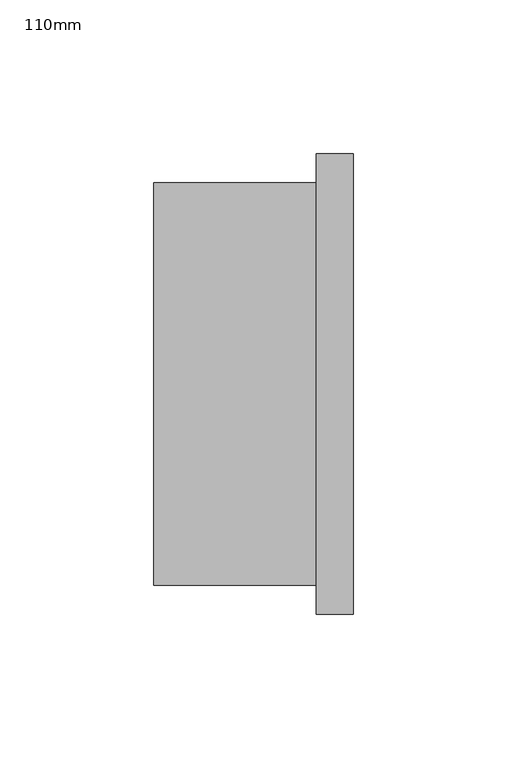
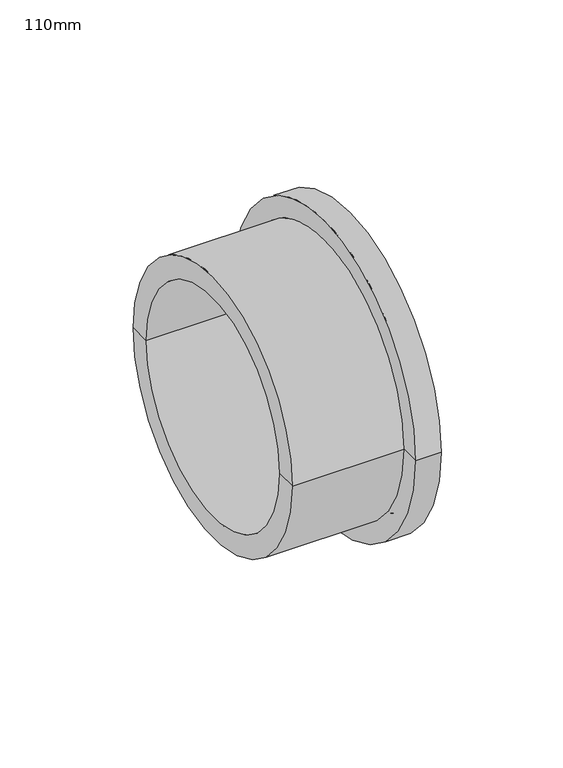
"""IFC4 building model written with IfcOpenShell, lengths in millimetres: pipe fitting geometry, Durapipe_PipeFitting_PVC_StubFlange : 110mm."""

from ifc_helpers import new_model, si_unit, frame, origin, place, context, project, spatial, polyline, circle_curve, source, transform, mapped, element, save
from ifc_brep_helpers import plane_surface, cylinder_surface, revolved_surface, advanced_brep


def pipe_fitting_110mm_e28571aa(model_context):
    return source(origin(), model_context, "Body", "AdvancedBrep", [
        advanced_brep(
        [(32.5, -75.0, 0.0), (32.5, 75.0, 0.0), (32.5, 67.5, 0.0), (32.5, -67.5, 0.0), (32.5, 45.0, 0.0), (32.5, -45.0, 0.0), (32.5, -63.7720779, 0.0), (32.5, 63.7720779, 0.0), (20.5, -75.0, 0.0), (20.5, 75.0, 0.0), (20.5, -65.5, 0.0), (20.5, 65.5, 0.0), (-32.5, -65.5, 0.0), (-32.5, 65.5, 0.0), (-32.5, -55.0, 0.0), (-32.5, 55.0, 0.0), (28.5, 45.0, 0.0), (28.5, -45.0, 0.0), (28.5, -55.0, 0.0), (28.5, 55.0, 0.0), (32.5, 65.0147186, 0.0), (31.0, 64.3933983, 0.0), (31.0, -64.3933983, 0.0), (32.5, -65.0147186, 0.0), (31.0, -65.636039, 0.0), (31.0, 65.636039, 0.0), (32.5, -66.2573593, 0.0), (32.5, 66.2573593, 0.0), (31.0, -66.8786797, 0.0), (31.0, 66.8786797, 0.0)],
        [
            (0, 1, circle_curve(frame((32.5, 0.0, 0.0), z_axis=(1.0, 0.0, 0.0), x_axis=(0.0, 1.0, 0.0)), 75.0)),
            (1, 2),
            (2, 3, circle_curve(frame((32.5, 0.0, 0.0), z_axis=(-1.0, 0.0, 0.0), x_axis=(0.0, -1.0, 0.0)), 67.5)),
            (3, 0),
            (4, 5, circle_curve(frame((32.5, 0.0, 0.0), z_axis=(-1.0, 0.0, 0.0), x_axis=(0.0, 1.0, 0.0)), 45.0)),
            (5, 6),
            (6, 7, circle_curve(frame((32.5, 0.0, 0.0), z_axis=(1.0, 0.0, 0.0), x_axis=(0.0, -1.0, 0.0)), 63.7720779)),
            (7, 4),
            (1, 0, circle_curve(frame((32.5, 0.0, 0.0), z_axis=(1.0, 0.0, 0.0), x_axis=(0.0, 1.0, 0.0)), 75.0)),
            (3, 2, circle_curve(frame((32.5, 0.0, 0.0), z_axis=(-1.0, 0.0, 0.0), x_axis=(0.0, 1.0, 0.0)), 67.5)),
            (5, 4, circle_curve(frame((32.5, 0.0, 0.0), z_axis=(-1.0, 0.0, 0.0), x_axis=(0.0, 1.0, 0.0)), 45.0)),
            (7, 6, circle_curve(frame((32.5, 0.0, 0.0), z_axis=(1.0, 0.0, 0.0), x_axis=(0.0, 1.0, 0.0)), 63.7720779)),
            (0, 8),
            (8, 9, circle_curve(frame((20.5, 0.0, 0.0), z_axis=(1.0, 0.0, 0.0), x_axis=(0.0, 1.0, 0.0)), 75.0)),
            (9, 1),
            (9, 8, circle_curve(frame((20.5, 0.0, 0.0), z_axis=(1.0, 0.0, 0.0), x_axis=(0.0, 1.0, 0.0)), 75.0)),
            (8, 10),
            (10, 11, circle_curve(frame((20.5, 0.0, 0.0), z_axis=(1.0, 0.0, 0.0), x_axis=(0.0, 1.0, 0.0)), 65.5)),
            (11, 9),
            (11, 10, circle_curve(frame((20.5, 0.0, 0.0), z_axis=(1.0, 0.0, 0.0), x_axis=(0.0, 1.0, 0.0)), 65.5)),
            (10, 12),
            (12, 13, circle_curve(frame((-32.5, 0.0, 0.0), z_axis=(1.0, 0.0, 0.0), x_axis=(0.0, 1.0, 0.0)), 65.5)),
            (13, 11),
            (13, 12, circle_curve(frame((-32.5, 0.0, 0.0), z_axis=(1.0, 0.0, 0.0), x_axis=(0.0, 1.0, 0.0)), 65.5)),
            (12, 14),
            (14, 15, circle_curve(frame((-32.5, 0.0, 0.0), z_axis=(1.0, 0.0, 0.0), x_axis=(0.0, 1.0, 0.0)), 55.0)),
            (15, 13),
            (15, 14, circle_curve(frame((-32.5, 0.0, 0.0), z_axis=(1.0, 0.0, 0.0), x_axis=(0.0, 1.0, 0.0)), 55.0)),
            (4, 16),
            (16, 17, circle_curve(frame((28.5, 0.0, 0.0), z_axis=(-1.0, 0.0, 0.0), x_axis=(0.0, 1.0, 0.0)), 45.0)),
            (17, 5),
            (17, 16, circle_curve(frame((28.5, 0.0, 0.0), z_axis=(-1.0, 0.0, 0.0), x_axis=(0.0, 1.0, 0.0)), 45.0)),
            (14, 18),
            (18, 19, circle_curve(frame((28.5, 0.0, 0.0), z_axis=(1.0, 0.0, 0.0), x_axis=(0.0, 1.0, 0.0)), 55.0)),
            (19, 15),
            (19, 18, circle_curve(frame((28.5, 0.0, 0.0), z_axis=(1.0, 0.0, 0.0), x_axis=(0.0, 1.0, 0.0)), 55.0)),
            (18, 17),
            (16, 19),
            (20, 21),
            (21, 22, circle_curve(frame((31.0, 0.0, 0.0), z_axis=(-1.0, 0.0, 0.0), x_axis=(0.0, -1.0, 0.0)), 64.3933983)),
            (22, 23),
            (23, 20, circle_curve(frame((32.5, 0.0, 0.0), z_axis=(1.0, 0.0, 0.0), x_axis=(0.0, -1.0, 0.0)), 65.0147186)),
            (23, 24),
            (24, 25, circle_curve(frame((31.0, 0.0, 0.0), z_axis=(1.0, 0.0, 0.0), x_axis=(0.0, -1.0, 0.0)), 65.636039)),
            (25, 20),
            (24, 26),
            (26, 27, circle_curve(frame((32.5, 0.0, 0.0), z_axis=(1.0, 0.0, 0.0), x_axis=(0.0, -1.0, 0.0)), 66.2573593)),
            (27, 25),
            (26, 28),
            (28, 29, circle_curve(frame((31.0, 0.0, 0.0), z_axis=(1.0, 0.0, 0.0), x_axis=(0.0, -1.0, 0.0)), 66.8786797)),
            (29, 27),
            (28, 3),
            (2, 29),
            (21, 7),
            (6, 22),
            (20, 23, circle_curve(frame((32.5, 0.0, 0.0), z_axis=(1.0, 0.0, 0.0), x_axis=(0.0, 1.0, 0.0)), 65.0147186)),
            (22, 21, circle_curve(frame((31.0, 0.0, 0.0), z_axis=(-1.0, 0.0, 0.0), x_axis=(0.0, 1.0, 0.0)), 64.3933983)),
            (25, 24, circle_curve(frame((31.0, 0.0, 0.0), z_axis=(1.0, 0.0, 0.0), x_axis=(0.0, 1.0, 0.0)), 65.636039)),
            (27, 26, circle_curve(frame((32.5, 0.0, 0.0), z_axis=(1.0, 0.0, 0.0), x_axis=(0.0, 1.0, 0.0)), 66.2573593)),
            (29, 28, circle_curve(frame((31.0, 0.0, 0.0), z_axis=(1.0, 0.0, 0.0), x_axis=(0.0, 1.0, 0.0)), 66.8786797)),
        ],
        [
            plane_surface(frame((32.5, 0.0, 0.0), z_axis=(1.0, 0.0, 0.0), x_axis=(0.0, 1.0, 0.0))),
            cylinder_surface(frame((35.6035546, 0.0, 0.0), z_axis=(-1.0, 0.0, 0.0), x_axis=(0.0, 1.0, 0.0)), 75.0),
            plane_surface(frame((20.5, 0.0, 0.0), z_axis=(-1.0, 0.0, 0.0), x_axis=(0.0, 1.0, 0.0))),
            cylinder_surface(frame((35.6035546, 0.0, 0.0), z_axis=(-1.0, 0.0, 0.0), x_axis=(0.0, 1.0, 0.0)), 65.5),
            plane_surface(frame((-32.5, 0.0, 0.0), z_axis=(-1.0, 0.0, 0.0), x_axis=(0.0, 1.0, 0.0))),
            revolved_surface(polyline([(28.5, 45.0, 0.0), (32.5, 45.0, 0.0)]), (35.6035546, 0.0, 0.0), (-1.0, 0.0, 0.0)),
            revolved_surface(polyline([(-32.5, 55.0, 0.0), (28.5, 55.0, 0.0)]), (-34.3250714, 0.0, 0.0), (-1.0, 0.0, 0.0)),
            plane_surface(frame((28.5, 0.0, 0.0), z_axis=(-1.0, 0.0, 0.0), x_axis=(0.0, 1.0, 0.0))),
            revolved_surface(polyline([(32.5, -65.0147186, 0.0), (31.0, -64.3933983, 0.0)]), (32.5, 0.0, 0.0), (1.0, 0.0, 0.0)),
            revolved_surface(polyline([(31.0, -65.636039, 0.0), (32.5, -65.0147186, 0.0)]), (32.5, 0.0, 0.0), (1.0, 0.0, 0.0)),
            revolved_surface(polyline([(32.5, -66.2573593, 0.0), (31.0, -65.636039, 0.0)]), (32.5, 0.0, 0.0), (1.0, 0.0, 0.0)),
            revolved_surface(polyline([(31.0, -66.8786797, 0.0), (32.5, -66.2573593, 0.0)]), (32.5, 0.0, 0.0), (1.0, 0.0, 0.0)),
            revolved_surface(polyline([(32.5, -67.5, 0.0), (31.0, -66.8786797, 0.0)]), (32.5, 0.0, 0.0), (1.0, 0.0, 0.0)),
            revolved_surface(polyline([(31.0, -64.3933983, 0.0), (32.5, -63.7720779, 0.0)]), (32.5, 0.0, 0.0), (1.0, 0.0, 0.0)),
            revolved_surface(polyline([(32.5, 65.0147186, 0.0), (31.0, 64.3933983, 0.0)]), (32.5, 0.0, 0.0), (1.0, 0.0, 0.0)),
            revolved_surface(polyline([(31.0, 65.636039, 0.0), (32.5, 65.0147186, 0.0)]), (32.5, 0.0, 0.0), (1.0, 0.0, 0.0)),
            revolved_surface(polyline([(32.5, 66.2573593, 0.0), (31.0, 65.636039, 0.0)]), (32.5, 0.0, 0.0), (1.0, 0.0, 0.0)),
            revolved_surface(polyline([(31.0, 66.8786797, 0.0), (32.5, 66.2573593, 0.0)]), (32.5, 0.0, 0.0), (1.0, 0.0, 0.0)),
            revolved_surface(polyline([(32.5, 67.5, 0.0), (31.0, 66.8786797, 0.0)]), (32.5, 0.0, 0.0), (1.0, 0.0, 0.0)),
            revolved_surface(polyline([(31.0, 64.3933983, 0.0), (32.5, 63.7720779, 0.0)]), (32.5, 0.0, 0.0), (1.0, 0.0, 0.0)),
        ],
        [
            (0, [[1, 2, 3, 4]]),
            (0, [[5, 6, 7, 8]]),
            (0, [[9, -4, 10, -2]]),
            (0, [[11, -8, 12, -6]]),
            (1, [[-1, 13, 14, 15]]),
            (1, [[-9, -15, 16, -13]]),
            (2, [[-14, 17, 18, 19]]),
            (2, [[-16, -19, 20, -17]]),
            (3, [[-18, 21, 22, 23]]),
            (3, [[-20, -23, 24, -21]]),
            (4, [[-22, 25, 26, 27]]),
            (4, [[-24, -27, 28, -25]]),
            (5, [[-5, 29, 30, 31]]),
            (5, [[-11, -31, 32, -29]]),
            (6, [[33, 34, 35, -26]]),
            (6, [[-33, -28, -35, 36]]),
            (7, [[-34, 37, -30, 38]]),
            (7, [[-36, -38, -32, -37]]),
            (8, [[39, 40, 41, 42]]),
            (9, [[-42, 43, 44, 45]]),
            (10, [[-44, 46, 47, 48]]),
            (11, [[-47, 49, 50, 51]]),
            (12, [[-50, 52, -3, 53]]),
            (13, [[-40, 54, -7, 55]]),
            (14, [[-39, 56, -41, 57]]),
            (15, [[-45, 58, -43, -56]]),
            (16, [[-48, 59, -46, -58]]),
            (17, [[-51, 60, -49, -59]]),
            (18, [[-53, -10, -52, -60]]),
            (19, [[-54, -57, -55, -12]]),
        ],
    ),
    ])


if __name__ == "__main__":
    model = new_model("IFC4")
    model_context = context("Model", 3, world=origin())
    ifc_project = project(units=[si_unit("LENGTHUNIT", "METRE", prefix="MILLI")], contexts=[model_context])
    site = spatial("IfcSite", under=ifc_project)
    building = spatial("IfcBuilding", under=site)
    placement = place(None, origin())
    pipe_fitting_110mm_shape = pipe_fitting_110mm_e28571aa(model_context)
    element("IfcPipeFitting", 1, ObjectType="Durapipe_PipeFitting_PVC_StubFlange : 110mm", at=placement, inside=building, context=model_context, shape_type="MappedRepresentation", body=[
        mapped(pipe_fitting_110mm_shape, transform((0.0, 0.0, 0.0), x_axis=(1.0, 0.0, 0.0), y_axis=(0.0, 1.0, 0.0), z_axis=(0.0, 0.0, 1.0))),
    ])
    save(model, "model.ifc")
